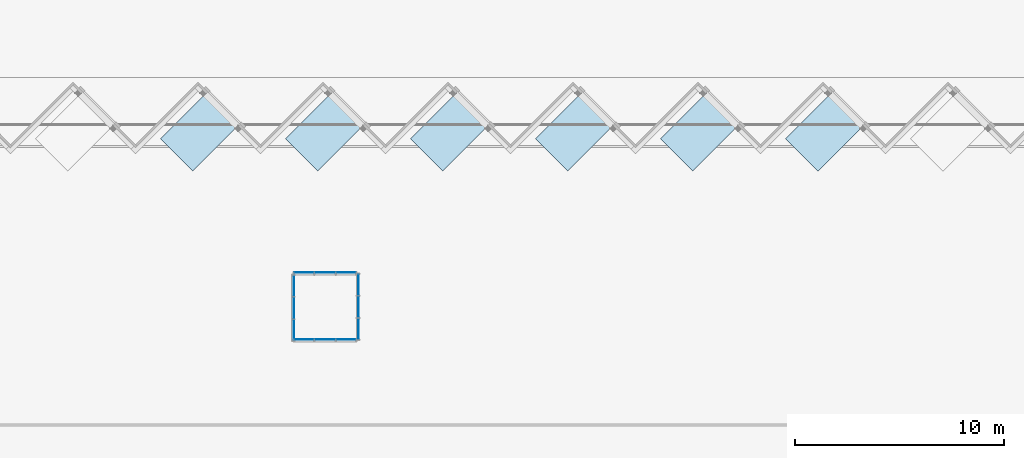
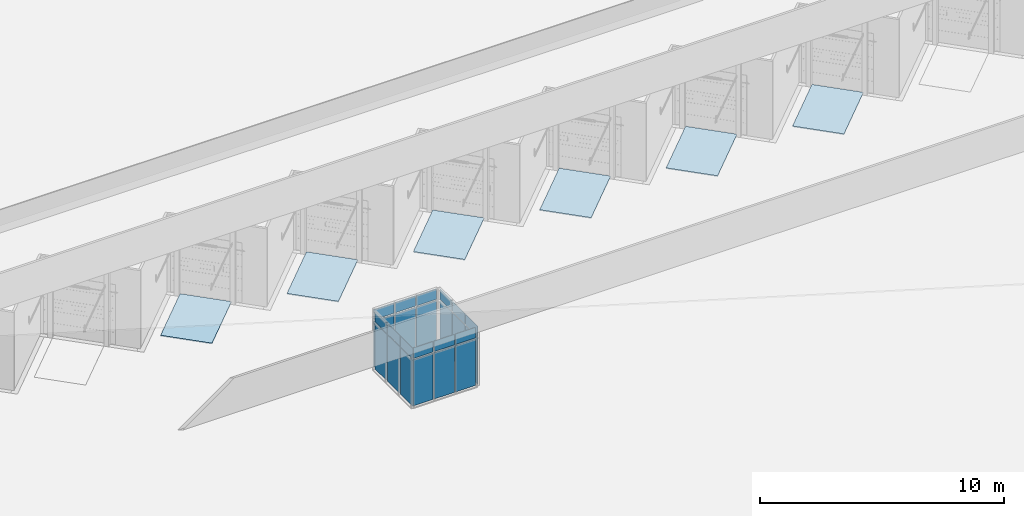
# One storey, part 17 of 64: 24 plates, 6 slabs, 4 elements without a shape of their own.
"""IFC2X3 building model written with IfcOpenShell, lengths in millimetres."""

from ifc_helpers import new_model, entity, si_unit, converted_unit, derived_unit, direction, frame, frame_2d, origin, origin_2d_with_axis, place, context, subcontext, project, spatial, rectangle, extrude, source, transform, mapped, material, layer, layer_set, layer_usage, type_object, type_shapes, element, aggregate, save


model = new_model("IFC2X3")

# Units and contexts
model_context = context("Model", 3, precision=0.01, world=origin(), true_north=direction((4.05803320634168e-15, -1.0)))
body_context = subcontext(model_context, "Body", "Model", "MODEL_VIEW")
ifc_project = project(units=[si_unit("LENGTHUNIT", "METRE", prefix="MILLI"), si_unit("AREAUNIT", "SQUARE_METRE"), si_unit("VOLUMEUNIT", "CUBIC_METRE"), converted_unit("PLANEANGLEUNIT", "DEGREE", entity("IfcRatioMeasure", 0.0174532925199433), si_unit("PLANEANGLEUNIT", "RADIAN"), dimensions=[0, 0, 0, 0, 0, 0, 0]), si_unit("MASSUNIT", "GRAM", prefix="KILO"), derived_unit("MASSDENSITYUNIT", [(si_unit("MASSUNIT", "GRAM", prefix="KILO"), 1), (si_unit("LENGTHUNIT", "METRE"), -3)]), si_unit("TIMEUNIT", "SECOND"), si_unit("FREQUENCYUNIT", "HERTZ"), si_unit("THERMODYNAMICTEMPERATUREUNIT", "DEGREE_CELSIUS"), derived_unit("THERMALTRANSMITTANCEUNIT", [(si_unit("MASSUNIT", "GRAM", prefix="KILO"), 1), (si_unit("THERMODYNAMICTEMPERATUREUNIT", "KELVIN"), -1), (si_unit("TIMEUNIT", "SECOND"), -3)]), derived_unit("VOLUMETRICFLOWRATEUNIT", [(si_unit("LENGTHUNIT", "METRE"), 3), (si_unit("TIMEUNIT", "SECOND"), -1)]), si_unit("ELECTRICCURRENTUNIT", "AMPERE"), si_unit("ELECTRICVOLTAGEUNIT", "VOLT"), si_unit("POWERUNIT", "WATT"), si_unit("FORCEUNIT", "NEWTON", prefix="KILO"), si_unit("ILLUMINANCEUNIT", "LUX"), si_unit("LUMINOUSFLUXUNIT", "LUMEN"), si_unit("LUMINOUSINTENSITYUNIT", "CANDELA"), derived_unit("USERDEFINED", [(si_unit("MASSUNIT", "GRAM", prefix="KILO"), -1), (si_unit("LENGTHUNIT", "METRE"), -2), (si_unit("TIMEUNIT", "SECOND"), 3), (si_unit("LUMINOUSFLUXUNIT", "LUMEN"), 1)]), derived_unit("LINEARVELOCITYUNIT", [(si_unit("LENGTHUNIT", "METRE"), 1), (si_unit("TIMEUNIT", "SECOND"), -1)]), si_unit("PRESSUREUNIT", "PASCAL"), derived_unit("USERDEFINED", [(si_unit("LENGTHUNIT", "METRE"), -2), (si_unit("MASSUNIT", "GRAM", prefix="KILO"), 1), (si_unit("TIMEUNIT", "SECOND"), -2)])], contexts=[model_context])

# Site, building, storey
site_placement = place(None, frame((927466.849349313, 583801.882853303, 0.0), z_axis=(0.0, 0.0, 1.0), x_axis=(-1.0, 0.0, 0.0)))
site = spatial("IfcSite", under=ifc_project, at=site_placement, Name="Surface", CompositionType="ELEMENT")
building_placement = place(site_placement, origin())
building = spatial("IfcBuilding", under=site, at=building_placement, CompositionType="ELEMENT")
storey_placement = place(building_placement, frame((0.0, 0.0, 44170.0)))
storey = spatial("IfcBuildingStorey", under=building, at=storey_placement, Name="Ground FFL", CompositionType="ELEMENT", Elevation=44170.0)

# Curtain wall, plates
curtain_wall_type = type_object("IfcCurtainWallType", Name="Curtain Wall:Storefront", PredefinedType="NOTDEFINED")
curtain_wall_1_placement = place(storey_placement, frame((0.0, 0.0, -44170.0)))
curtain_wall_1 = element("IfcCurtainWall", 1, at=curtain_wall_1_placement, inside=storey, type_object=curtain_wall_type, Name="Curtain Wall:Storefront", ObjectType="Curtain Wall:Storefront")
ifc_material_1 = material(Name="Glass")
plate_type_1 = type_object("IfcPlateType", Name="Glazed", PredefinedType="CURTAIN_PANEL", material=ifc_material_1)
shared_shape_1 = source(origin(), body_context, "Body", "SweptSolid", [
    extrude(rectangle(XDim=25.0, YDim=991.666666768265, at=origin_2d_with_axis()), frame((0.0, -37.0, 0.0), z_axis=(0.0, 0.0, 1.0), x_axis=(0.0, 1.0, 0.0)), (0.0, 0.0, 1.0), 2325.0),
])
type_shapes(plate_type_1, [shared_shape_1])
plate_1_placement = place(curtain_wall_1_placement, frame((-91700.5917798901, -21867.5736544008, 44220.0), z_axis=(0.0, 0.0, 1.0), x_axis=(0.0, -1.0, 0.0)))
plate_1 = element("IfcPlate", 2, at=plate_1_placement, type_object=plate_type_1, material=ifc_material_1, Name="System Panel:Glazed", ObjectType="Glazed", context=body_context, shape_type="MappedRepresentation", body=[
    mapped(shared_shape_1, transform((0.0, 0.0, 0.0), scale=1.0)),
])
plate_2_placement = place(curtain_wall_1_placement, frame((-91700.5917798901, -23975.9069876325, 44220.0), z_axis=(0.0, 0.0, 1.0), x_axis=(0.0, -1.0, 0.0)))
plate_2 = element("IfcPlate", 3, at=plate_2_placement, type_object=plate_type_1, material=ifc_material_1, Name="System Panel:Glazed", ObjectType="Glazed", context=body_context, shape_type="MappedRepresentation", body=[
    mapped(shared_shape_1, transform((0.0, 0.0, 0.0), scale=1.0)),
])

curtain_wall_2_placement = place(storey_placement, frame((0.0, 0.0, -44170.0)))
curtain_wall_2 = element("IfcCurtainWall", 4, at=curtain_wall_2_placement, inside=storey, type_object=curtain_wall_type, Name="Curtain Wall:Storefront", ObjectType="Curtain Wall:Storefront")
plate_3_placement = place(curtain_wall_2_placement, frame((-88600.5917798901, -21817.5736544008, 44220.0), z_axis=(0.0, 0.0, 1.0), x_axis=(0.0, -1.0, 0.0)))
plate_3 = element("IfcPlate", 5, at=plate_3_placement, type_object=plate_type_1, material=ifc_material_1, Name="System Panel:Glazed", ObjectType="Glazed", context=body_context, shape_type="MappedRepresentation", body=[
    mapped(shared_shape_1, transform((0.0, 0.0, 0.0), scale=1.0)),
])
plate_4_placement = place(curtain_wall_2_placement, frame((-88600.5917798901, -23925.9069876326, 44220.0), z_axis=(0.0, 0.0, 1.0), x_axis=(0.0, -1.0, 0.0)))
plate_4 = element("IfcPlate", 6, at=plate_4_placement, type_object=plate_type_1, material=ifc_material_1, Name="System Panel:Glazed", ObjectType="Glazed", context=body_context, shape_type="MappedRepresentation", body=[
    mapped(shared_shape_1, transform((0.0, 0.0, 0.0), scale=1.0)),
])

# Plate
plate_type_2 = type_object("IfcPlateType", Name="Glazed", PredefinedType="CURTAIN_PANEL", material=ifc_material_1)
shared_shape_2 = source(origin(), body_context, "Body", "SweptSolid", [
    extrude(rectangle(XDim=25.0, YDim=1016.66666646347, at=origin_2d_with_axis()), frame((0.0, -37.0, 0.0), z_axis=(0.0, 0.0, 1.0), x_axis=(0.0, 1.0, 0.0)), (0.0, 0.0, 1.0), 2325.0),
])
type_shapes(plate_type_2, [shared_shape_2])
plate_5_placement = place(curtain_wall_1_placement, frame((-91700.5917798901, -22921.7403210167, 44220.0), z_axis=(0.0, 0.0, 1.0), x_axis=(0.0, -1.0, 0.0)))
plate_5 = element("IfcPlate", 7, at=plate_5_placement, type_object=plate_type_2, material=ifc_material_1, Name="System Panel:Glazed", ObjectType="Glazed", context=body_context, shape_type="MappedRepresentation", body=[
    mapped(shared_shape_2, transform((0.0, 0.0, 0.0), scale=1.0)),
])

plate_6_placement = place(curtain_wall_2_placement, frame((-88600.5917798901, -22871.7403210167, 44220.0), z_axis=(0.0, 0.0, 1.0), x_axis=(0.0, -1.0, 0.0)))
plate_6 = element("IfcPlate", 8, at=plate_6_placement, type_object=plate_type_2, material=ifc_material_1, Name="System Panel:Glazed", ObjectType="Glazed", context=body_context, shape_type="MappedRepresentation", body=[
    mapped(shared_shape_2, transform((0.0, 0.0, 0.0), scale=1.0)),
])

plate_type_3 = type_object("IfcPlateType", Name="Glazed", PredefinedType="CURTAIN_PANEL", material=ifc_material_1)
shared_shape_3 = source(origin(), body_context, "Body", "SweptSolid", [
    extrude(rectangle(XDim=25.0, YDim=991.666666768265, at=origin_2d_with_axis()), frame((0.0, -37.0, 0.0), z_axis=(0.0, 0.0, 1.0), x_axis=(0.0, 1.0, 0.0)), (0.0, 0.0, 1.0), 526.145744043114),
])
type_shapes(plate_type_3, [shared_shape_3])
plate_7_placement = place(curtain_wall_1_placement, frame((-91700.5917798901, -21867.5736544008, 46595.0), z_axis=(0.0, 0.0, 1.0), x_axis=(0.0, -1.0, 0.0)))
plate_7 = element("IfcPlate", 9, at=plate_7_placement, type_object=plate_type_3, material=ifc_material_1, Name="System Panel:Glazed", ObjectType="Glazed", context=body_context, shape_type="MappedRepresentation", body=[
    mapped(shared_shape_3, transform((0.0, 0.0, 0.0), scale=1.0)),
])

plate_8_placement = place(curtain_wall_1_placement, frame((-91700.5917798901, -23975.9069876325, 46595.0), z_axis=(0.0, 0.0, 1.0), x_axis=(0.0, -1.0, 0.0)))
plate_8 = element("IfcPlate", 10, at=plate_8_placement, type_object=plate_type_3, material=ifc_material_1, Name="System Panel:Glazed", ObjectType="Glazed", context=body_context, shape_type="MappedRepresentation", body=[
    mapped(shared_shape_3, transform((0.0, 0.0, 0.0), scale=1.0)),
])

plate_type_4 = type_object("IfcPlateType", Name="Glazed", PredefinedType="CURTAIN_PANEL", material=ifc_material_1)
shared_shape_4 = source(origin(), body_context, "Body", "SweptSolid", [
    extrude(rectangle(XDim=25.0, YDim=1016.66666646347, at=origin_2d_with_axis()), frame((0.0, -37.0, 0.0), z_axis=(0.0, 0.0, 1.0), x_axis=(0.0, 1.0, 0.0)), (0.0, 0.0, 1.0), 526.145744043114),
])
type_shapes(plate_type_4, [shared_shape_4])
plate_9_placement = place(curtain_wall_1_placement, frame((-91700.5917798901, -22921.7403210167, 46595.0), z_axis=(0.0, 0.0, 1.0), x_axis=(0.0, -1.0, 0.0)))
plate_9 = element("IfcPlate", 11, at=plate_9_placement, type_object=plate_type_4, material=ifc_material_1, Name="System Panel:Glazed", ObjectType="Glazed", context=body_context, shape_type="MappedRepresentation", body=[
    mapped(shared_shape_4, transform((0.0, 0.0, 0.0), scale=1.0)),
])

aggregate(curtain_wall_1, [plate_1, plate_5, plate_2, plate_7, plate_9, plate_8])

# Curtain wall, plates
curtain_wall_3_placement = place(storey_placement, frame((0.0, 0.0, -44170.0)))
curtain_wall_3 = element("IfcCurtainWall", 12, at=curtain_wall_3_placement, inside=storey, type_object=curtain_wall_type, Name="Curtain Wall:Storefront", ObjectType="Curtain Wall:Storefront")
plate_type_5 = type_object("IfcPlateType", Name="Glazed", PredefinedType="CURTAIN_PANEL", material=ifc_material_1)
shared_shape_5 = source(origin(), body_context, "Body", "SweptSolid", [
    extrude(rectangle(XDim=25.0, YDim=941.666666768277, at=origin_2d_with_axis()), frame((0.0, 37.0, 0.0), z_axis=(0.0, 0.0, 1.0), x_axis=(0.0, 1.0, 0.0)), (0.0, 0.0, 1.0), 2325.0),
])
type_shapes(plate_type_5, [shared_shape_5])
plate_10_placement = place(curtain_wall_3_placement, frame((-89121.4251132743, -21321.7403210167, 44220.0), z_axis=(0.0, 0.0, 1.0), x_axis=(-1.0, 0.0, 0.0)))
plate_10 = element("IfcPlate", 13, at=plate_10_placement, type_object=plate_type_5, material=ifc_material_1, Name="System Panel:Glazed", ObjectType="Glazed", context=body_context, shape_type="MappedRepresentation", body=[
    mapped(shared_shape_5, transform((0.0, 0.0, 0.0), scale=1.0)),
])
plate_11_placement = place(curtain_wall_3_placement, frame((-91129.758446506, -21321.7403210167, 44220.0), z_axis=(0.0, 0.0, 1.0), x_axis=(-1.0, 0.0, 0.0)))
plate_11 = element("IfcPlate", 14, at=plate_11_placement, type_object=plate_type_5, material=ifc_material_1, Name="System Panel:Glazed", ObjectType="Glazed", context=body_context, shape_type="MappedRepresentation", body=[
    mapped(shared_shape_5, transform((0.0, 0.0, 0.0), scale=1.0)),
])

curtain_wall_4_placement = place(storey_placement, frame((0.0, 0.0, -44170.0)))
curtain_wall_4 = element("IfcCurtainWall", 15, at=curtain_wall_4_placement, inside=storey, type_object=curtain_wall_type, Name="Curtain Wall:Storefront", ObjectType="Curtain Wall:Storefront")
plate_12_placement = place(curtain_wall_4_placement, frame((-89121.4251132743, -24521.7403210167, 44220.0), z_axis=(0.0, 0.0, 1.0), x_axis=(-1.0, 0.0, 0.0)))
plate_12 = element("IfcPlate", 16, at=plate_12_placement, type_object=plate_type_5, material=ifc_material_1, Name="System Panel:Glazed", ObjectType="Glazed", context=body_context, shape_type="MappedRepresentation", body=[
    mapped(shared_shape_5, transform((0.0, 0.0, 0.0), scale=1.0)),
])
plate_13_placement = place(curtain_wall_4_placement, frame((-91129.758446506, -24521.7403210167, 44220.0), z_axis=(0.0, 0.0, 1.0), x_axis=(-1.0, 0.0, 0.0)))
plate_13 = element("IfcPlate", 17, at=plate_13_placement, type_object=plate_type_5, material=ifc_material_1, Name="System Panel:Glazed", ObjectType="Glazed", context=body_context, shape_type="MappedRepresentation", body=[
    mapped(shared_shape_5, transform((0.0, 0.0, 0.0), scale=1.0)),
])

# Plate
plate_type_6 = type_object("IfcPlateType", Name="Glazed", PredefinedType="CURTAIN_PANEL", material=ifc_material_1)
shared_shape_6 = source(origin(), body_context, "Body", "SweptSolid", [
    extrude(rectangle(XDim=25.0, YDim=966.666666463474, at=origin_2d_with_axis()), frame((0.0, 37.0, 0.0), z_axis=(0.0, 0.0, 1.0), x_axis=(0.0, 1.0, 0.0)), (0.0, 0.0, 1.0), 2325.0),
])
type_shapes(plate_type_6, [shared_shape_6])
plate_14_placement = place(curtain_wall_3_placement, frame((-90125.5917798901, -21321.7403210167, 44220.0), z_axis=(0.0, 0.0, 1.0), x_axis=(-1.0, 0.0, 0.0)))
plate_14 = element("IfcPlate", 18, at=plate_14_placement, type_object=plate_type_6, material=ifc_material_1, Name="System Panel:Glazed", ObjectType="Glazed", context=body_context, shape_type="MappedRepresentation", body=[
    mapped(shared_shape_6, transform((0.0, 0.0, 0.0), scale=1.0)),
])

plate_15_placement = place(curtain_wall_4_placement, frame((-90125.5917798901, -24521.7403210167, 44220.0), z_axis=(0.0, 0.0, 1.0), x_axis=(-1.0, 0.0, 0.0)))
plate_15 = element("IfcPlate", 19, at=plate_15_placement, type_object=plate_type_6, material=ifc_material_1, Name="System Panel:Glazed", ObjectType="Glazed", context=body_context, shape_type="MappedRepresentation", body=[
    mapped(shared_shape_6, transform((0.0, 0.0, 0.0), scale=1.0)),
])

plate_type_7 = type_object("IfcPlateType", Name="Glazed", PredefinedType="CURTAIN_PANEL", material=ifc_material_1)
shared_shape_7 = source(origin(), body_context, "Body", "SweptSolid", [
    extrude(rectangle(XDim=25.0, YDim=941.666666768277, at=origin_2d_with_axis()), frame((0.0, 37.0, 0.0), z_axis=(0.0, 0.0, 1.0), x_axis=(0.0, 1.0, 0.0)), (0.0, 0.0, 1.0), 526.145744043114),
])
type_shapes(plate_type_7, [shared_shape_7])
plate_16_placement = place(curtain_wall_3_placement, frame((-89121.4251132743, -21321.7403210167, 46595.0), z_axis=(0.0, 0.0, 1.0), x_axis=(-1.0, 0.0, 0.0)))
plate_16 = element("IfcPlate", 20, at=plate_16_placement, type_object=plate_type_7, material=ifc_material_1, Name="System Panel:Glazed", ObjectType="Glazed", context=body_context, shape_type="MappedRepresentation", body=[
    mapped(shared_shape_7, transform((0.0, 0.0, 0.0), scale=1.0)),
])

plate_17_placement = place(curtain_wall_3_placement, frame((-91129.758446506, -21321.7403210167, 46595.0), z_axis=(0.0, 0.0, 1.0), x_axis=(-1.0, 0.0, 0.0)))
plate_17 = element("IfcPlate", 21, at=plate_17_placement, type_object=plate_type_7, material=ifc_material_1, Name="System Panel:Glazed", ObjectType="Glazed", context=body_context, shape_type="MappedRepresentation", body=[
    mapped(shared_shape_7, transform((0.0, 0.0, 0.0), scale=1.0)),
])

plate_type_8 = type_object("IfcPlateType", Name="Glazed", PredefinedType="CURTAIN_PANEL", material=ifc_material_1)
shared_shape_8 = source(origin(), body_context, "Body", "SweptSolid", [
    extrude(rectangle(XDim=25.0, YDim=966.666666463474, at=origin_2d_with_axis()), frame((0.0, 37.0, 0.0), z_axis=(0.0, 0.0, 1.0), x_axis=(0.0, 1.0, 0.0)), (0.0, 0.0, 1.0), 526.145744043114),
])
type_shapes(plate_type_8, [shared_shape_8])
plate_18_placement = place(curtain_wall_3_placement, frame((-90125.5917798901, -21321.7403210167, 46595.0), z_axis=(0.0, 0.0, 1.0), x_axis=(-1.0, 0.0, 0.0)))
plate_18 = element("IfcPlate", 22, at=plate_18_placement, type_object=plate_type_8, material=ifc_material_1, Name="System Panel:Glazed", ObjectType="Glazed", context=body_context, shape_type="MappedRepresentation", body=[
    mapped(shared_shape_8, transform((0.0, 0.0, 0.0), scale=1.0)),
])

aggregate(curtain_wall_3, [plate_10, plate_14, plate_11, plate_16, plate_18, plate_17])

plate_type_9 = type_object("IfcPlateType", Name="Glazed", PredefinedType="CURTAIN_PANEL", material=ifc_material_1)
shared_shape_9 = source(origin(), body_context, "Body", "SweptSolid", [
    extrude(rectangle(XDim=25.0, YDim=941.666666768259, at=origin_2d_with_axis()), frame((0.0, 37.0, 0.0), z_axis=(0.0, 0.0, 1.0), x_axis=(0.0, 1.0, 0.0)), (0.0, 0.0, 1.0), 525.000000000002),
])
type_shapes(plate_type_9, [shared_shape_9])
plate_19_placement = place(curtain_wall_4_placement, frame((-89121.4251132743, -24521.7403210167, 46595.0), z_axis=(0.0, 0.0, 1.0), x_axis=(-1.0, 0.0, 0.0)))
plate_19 = element("IfcPlate", 23, at=plate_19_placement, type_object=plate_type_9, material=ifc_material_1, Name="System Panel:Glazed", ObjectType="Glazed", context=body_context, shape_type="MappedRepresentation", body=[
    mapped(shared_shape_9, transform((0.0, 0.0, 0.0), scale=1.0)),
])

plate_20_placement = place(curtain_wall_4_placement, frame((-91129.758446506, -24521.7403210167, 46595.0), z_axis=(0.0, 0.0, 1.0), x_axis=(-1.0, 0.0, 0.0)))
plate_20 = element("IfcPlate", 24, at=plate_20_placement, type_object=plate_type_9, material=ifc_material_1, Name="System Panel:Glazed", ObjectType="Glazed", context=body_context, shape_type="MappedRepresentation", body=[
    mapped(shared_shape_9, transform((0.0, 0.0, 0.0), scale=1.0)),
])

plate_type_10 = type_object("IfcPlateType", Name="Glazed", PredefinedType="CURTAIN_PANEL", material=ifc_material_1)
shared_shape_10 = source(origin(), body_context, "Body", "SweptSolid", [
    extrude(rectangle(XDim=25.0, YDim=966.666666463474, at=origin_2d_with_axis()), frame((0.0, 37.0, 0.0), z_axis=(0.0, 0.0, 1.0), x_axis=(0.0, 1.0, 0.0)), (0.0, 0.0, 1.0), 525.000000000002),
])
type_shapes(plate_type_10, [shared_shape_10])
plate_21_placement = place(curtain_wall_4_placement, frame((-90125.5917798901, -24521.7403210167, 46595.0), z_axis=(0.0, 0.0, 1.0), x_axis=(-1.0, 0.0, 0.0)))
plate_21 = element("IfcPlate", 25, at=plate_21_placement, type_object=plate_type_10, material=ifc_material_1, Name="System Panel:Glazed", ObjectType="Glazed", context=body_context, shape_type="MappedRepresentation", body=[
    mapped(shared_shape_10, transform((0.0, 0.0, 0.0), scale=1.0)),
])

aggregate(curtain_wall_4, [plate_12, plate_15, plate_13, plate_19, plate_21, plate_20])

plate_type_11 = type_object("IfcPlateType", Name="Glazed", PredefinedType="CURTAIN_PANEL", material=ifc_material_1)
shared_shape_11 = source(origin(), body_context, "Body", "SweptSolid", [
    extrude(rectangle(XDim=25.0, YDim=991.666666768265, at=frame_2d((-1.77635683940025e-15, 0.0), x_axis=(1.0, 0.0))), frame((0.0, -37.0, 0.0), z_axis=(0.0, 0.0, 1.0), x_axis=(0.0, 1.0, 0.0)), (0.0, 0.0, 1.0), 525.000000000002),
])
type_shapes(plate_type_11, [shared_shape_11])
plate_22_placement = place(curtain_wall_2_placement, frame((-88600.5917798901, -21817.5736544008, 46595.0), z_axis=(0.0, 0.0, 1.0), x_axis=(0.0, -1.0, 0.0)))
plate_22 = element("IfcPlate", 26, at=plate_22_placement, type_object=plate_type_11, material=ifc_material_1, Name="System Panel:Glazed", ObjectType="Glazed", context=body_context, shape_type="MappedRepresentation", body=[
    mapped(shared_shape_11, transform((0.0, 0.0, 0.0), scale=1.0)),
])

plate_23_placement = place(curtain_wall_2_placement, frame((-88600.5917798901, -23925.9069876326, 46595.0), z_axis=(0.0, 0.0, 1.0), x_axis=(0.0, -1.0, 0.0)))
plate_23 = element("IfcPlate", 27, at=plate_23_placement, type_object=plate_type_11, material=ifc_material_1, Name="System Panel:Glazed", ObjectType="Glazed", context=body_context, shape_type="MappedRepresentation", body=[
    mapped(shared_shape_11, transform((0.0, 0.0, 0.0), scale=1.0)),
])

plate_type_12 = type_object("IfcPlateType", Name="Glazed", PredefinedType="CURTAIN_PANEL", material=ifc_material_1)
shared_shape_12 = source(origin(), body_context, "Body", "SweptSolid", [
    extrude(rectangle(XDim=25.0, YDim=1016.66666646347, at=origin_2d_with_axis()), frame((0.0, -37.0, 0.0), z_axis=(0.0, 0.0, 1.0), x_axis=(0.0, 1.0, 0.0)), (0.0, 0.0, 1.0), 525.000000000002),
])
type_shapes(plate_type_12, [shared_shape_12])
plate_24_placement = place(curtain_wall_2_placement, frame((-88600.5917798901, -22871.7403210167, 46595.0), z_axis=(0.0, 0.0, 1.0), x_axis=(0.0, -1.0, 0.0)))
plate_24 = element("IfcPlate", 28, at=plate_24_placement, type_object=plate_type_12, material=ifc_material_1, Name="System Panel:Glazed", ObjectType="Glazed", context=body_context, shape_type="MappedRepresentation", body=[
    mapped(shared_shape_12, transform((0.0, 0.0, 0.0), scale=1.0)),
])

aggregate(curtain_wall_2, [plate_3, plate_6, plate_4, plate_22, plate_24, plate_23])

# Slabs
ifc_material_2 = material(Name="Wood - Stained")
ifc_layer = layer(ifc_material_2, 50.0)
ifc_layer_set = layer_set([ifc_layer], Name="Floor:Counter")
ifc_layer_usage = layer_usage(ifc_layer_set, "AXIS3", "POSITIVE", 0.0)
slab_1_placement = place(storey_placement, frame((-133856.377847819, -33145.9604752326, -50.0)))
element("IfcSlab", 29, at=slab_1_placement, inside=storey, material=ifc_layer_usage, Name="Floor:Counter:4", ObjectType="Floor:Counter", PredefinedType="FLOOR", context=body_context, shape_type="SweptSolid", body=[
    extrude(rectangle(XDim=3081.03749272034, YDim=2185.04626113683, at=frame_2d((23941.2931227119, 0.0), x_axis=(0.707106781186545, -0.70710678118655))), frame((43759.1047310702, 1861.84176632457, 50.0), z_axis=(0.0, 0.0, -1.0), x_axis=(-1.0, 0.0, 0.0)), (0.0, 0.0, 1.0), 49.9999999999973),
])
slab_2_placement = place(storey_placement, frame((-133856.377847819, -33145.9604752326, -50.0)))
element("IfcSlab", 30, at=slab_2_placement, inside=storey, material=ifc_layer_usage, Name="Floor:Counter:5", ObjectType="Floor:Counter", PredefinedType="FLOOR", context=body_context, shape_type="SweptSolid", body=[
    extrude(rectangle(XDim=3081.03749272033, YDim=2185.04626113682, at=frame_2d((17955.969842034, 0.0), x_axis=(0.707106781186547, -0.707106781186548))), frame((43759.1047310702, 1861.84176632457, 50.0), z_axis=(0.0, 0.0, -1.0), x_axis=(-1.0, 0.0, 0.0)), (0.0, 0.0, 1.0), 49.9999999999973),
])
slab_3_placement = place(storey_placement, frame((-133856.377847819, -33145.9604752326, -50.0)))
element("IfcSlab", 31, at=slab_3_placement, inside=storey, material=ifc_layer_usage, Name="Floor:Counter:6", ObjectType="Floor:Counter", PredefinedType="FLOOR", context=body_context, shape_type="SweptSolid", body=[
    extrude(rectangle(XDim=3081.0374927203, YDim=2185.04626113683, at=frame_2d((11970.6465613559, 0.0), x_axis=(0.707106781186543, -0.707106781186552))), frame((43759.1047310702, 1861.84176632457, 50.0), z_axis=(0.0, 0.0, -1.0), x_axis=(-1.0, 0.0, 0.0)), (0.0, 0.0, 1.0), 49.9999999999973),
])
slab_4_placement = place(storey_placement, frame((-133856.377847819, -33145.9604752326, -50.0)))
element("IfcSlab", 32, at=slab_4_placement, inside=storey, material=ifc_layer_usage, Name="Floor:Counter:7", ObjectType="Floor:Counter", PredefinedType="FLOOR", context=body_context, shape_type="SweptSolid", body=[
    extrude(rectangle(XDim=3081.03749272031, YDim=2185.04626113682, at=frame_2d((5985.32328067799, 0.0), x_axis=(0.707106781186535, -0.70710678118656))), frame((43759.1047310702, 1861.84176632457, 50.0), z_axis=(0.0, 0.0, -1.0), x_axis=(-1.0, 0.0, 0.0)), (0.0, 0.0, 1.0), 49.9999999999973),
])
slab_5_placement = place(storey_placement, frame((-133856.377847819, -33145.9604752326, -50.0)))
element("IfcSlab", 33, at=slab_5_placement, inside=storey, material=ifc_layer_usage, Name="Floor:Counter:8", ObjectType="Floor:Counter", PredefinedType="FLOOR", context=body_context, shape_type="SweptSolid", body=[
    extrude(rectangle(XDim=3081.03749272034, YDim=2185.04626113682, at=frame_2d((0.0, 0.0), x_axis=(0.707106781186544, -0.707106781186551))), frame((43759.1047310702, 1861.84176632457, 50.0), z_axis=(0.0, 0.0, -1.0), x_axis=(-1.0, 0.0, 0.0)), (0.0, 0.0, 1.0), 49.9999999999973),
])
slab_6_placement = place(storey_placement, frame((-133856.377847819, -33145.9604752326, -50.0)))
element("IfcSlab", 34, at=slab_6_placement, inside=storey, material=ifc_layer_usage, Name="Floor:Counter:9", ObjectType="Floor:Counter", PredefinedType="FLOOR", context=body_context, shape_type="SweptSolid", body=[
    extrude(rectangle(XDim=3081.03749272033, YDim=2185.04626113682, at=frame_2d((-5985.32328067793, 0.0), x_axis=(0.707106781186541, -0.707106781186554))), frame((43759.1047310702, 1861.84176632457, 50.0), z_axis=(0.0, 0.0, -1.0), x_axis=(-1.0, 0.0, 0.0)), (0.0, 0.0, 1.0), 49.9999999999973),
])

save(model, "model.ifc")
